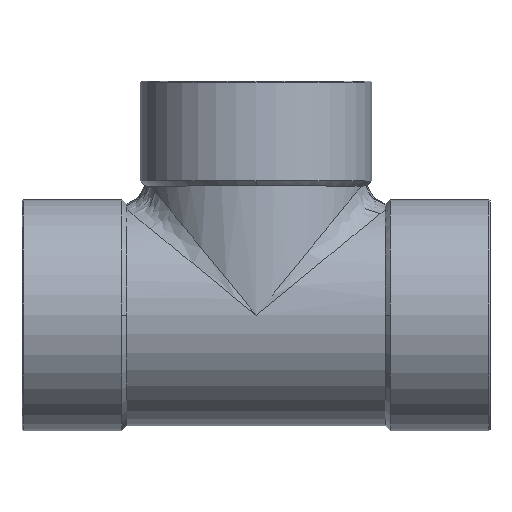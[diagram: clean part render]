
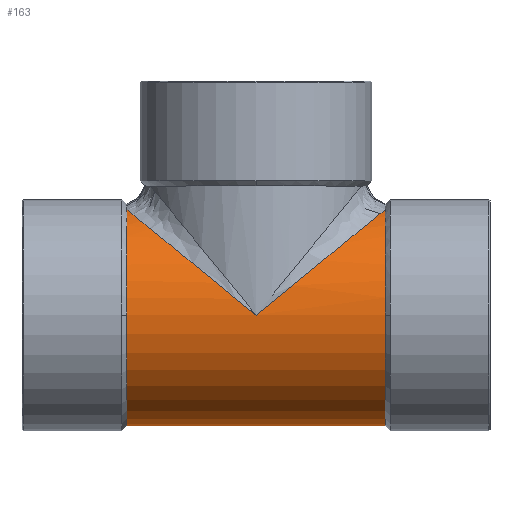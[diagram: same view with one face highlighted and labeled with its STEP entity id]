
A CAD part, top view. The second image highlights one B-rep face of the part: STEP entity #163.
In plain terms, the highlighted cylindrical face has radius 44.5 mm (diameter 89 mm), a partial arc.
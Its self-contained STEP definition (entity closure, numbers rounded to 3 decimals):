
#77=CARTESIAN_POINT('',(52.,0.,44.5));
#78=VERTEX_POINT('',#77);
#85=CARTESIAN_POINT('',(52.,-44.5,0.));
#86=VERTEX_POINT('',#85);
#87=CARTESIAN_POINT('',(52.,0.,0.0));
#88=DIRECTION('',(-1.0,0.0,0.0));
#89=DIRECTION('',(0.0,1.0,0.0));
#90=AXIS2_PLACEMENT_3D('',#87,#88,#89);
#91=CIRCLE('',#90,44.5);
#92=EDGE_CURVE('',#86,#78,#91,.T.);
#104=CARTESIAN_POINT('',(0.,0.,0.0));
#105=DIRECTION('',(1.0,0.,0.0));
#106=DIRECTION('',(0.0,1.0,0.0));
#107=AXIS2_PLACEMENT_3D('',#104,#105,#106);
#108=CYLINDRICAL_SURFACE('',#107,44.5);
#109=CARTESIAN_POINT('',(-52.,-44.5,0.));
#110=VERTEX_POINT('',#109);
#111=CARTESIAN_POINT('',(52.,-44.5,0.));
#112=DIRECTION('',(-1.0,0.0,0.0));
#113=VECTOR('',#112,104.);
#114=LINE('',#111,#113);
#115=EDGE_CURVE('',#86,#110,#114,.T.);
#116=ORIENTED_EDGE('',*,*,#115,.F.);
#117=ORIENTED_EDGE('',*,*,#92,.T.);
#118=CARTESIAN_POINT('',(52.,42.459,13.323));
#119=VERTEX_POINT('',#118);
#120=CARTESIAN_POINT('',(52.,0.,0.0));
#121=DIRECTION('',(-1.0,0.0,0.0));
#122=DIRECTION('',(0.0,1.0,0.0));
#123=AXIS2_PLACEMENT_3D('',#120,#121,#122);
#124=CIRCLE('',#123,44.5);
#125=EDGE_CURVE('',#78,#119,#124,.T.);
#126=ORIENTED_EDGE('',*,*,#125,.T.);
#127=CARTESIAN_POINT('',(0.,0.,44.5));
#128=VERTEX_POINT('',#127);
#129=CARTESIAN_POINT('',(0.0,0.,0.0));
#130=DIRECTION('',(-0.632,0.775,0.));
#131=DIRECTION('',(0.775,0.632,0.0));
#132=AXIS2_PLACEMENT_3D('',#129,#130,#131);
#133=ELLIPSE('',#132,70.36,44.5);
#134=EDGE_CURVE('',#128,#119,#133,.T.);
#135=ORIENTED_EDGE('',*,*,#134,.F.);
#136=CARTESIAN_POINT('',(-52.,42.459,13.323));
#137=VERTEX_POINT('',#136);
#138=CARTESIAN_POINT('',(0.0,0.,0.0));
#139=DIRECTION('',(0.632,0.775,0.));
#140=DIRECTION('',(-0.775,0.632,0.0));
#141=AXIS2_PLACEMENT_3D('',#138,#139,#140);
#142=ELLIPSE('',#141,70.36,44.5);
#143=EDGE_CURVE('',#137,#128,#142,.T.);
#144=ORIENTED_EDGE('',*,*,#143,.F.);
#145=CARTESIAN_POINT('',(-52.0,0.,44.5));
#146=VERTEX_POINT('',#145);
#147=CARTESIAN_POINT('',(-52.,0.,0.0));
#148=DIRECTION('',(1.0,0.0,0.0));
#149=DIRECTION('',(0.0,1.0,0.0));
#150=AXIS2_PLACEMENT_3D('',#147,#148,#149);
#151=CIRCLE('',#150,44.5);
#152=EDGE_CURVE('',#137,#146,#151,.T.);
#153=ORIENTED_EDGE('',*,*,#152,.T.);
#154=CARTESIAN_POINT('',(-52.,0.,0.0));
#155=DIRECTION('',(1.0,0.0,0.0));
#156=DIRECTION('',(0.0,1.0,0.0));
#157=AXIS2_PLACEMENT_3D('',#154,#155,#156);
#158=CIRCLE('',#157,44.5);
#159=EDGE_CURVE('',#146,#110,#158,.T.);
#160=ORIENTED_EDGE('',*,*,#159,.T.);
#161=EDGE_LOOP('',(#116,#117,#126,#135,#144,#153,#160));
#162=FACE_OUTER_BOUND('',#161,.T.);
#163=ADVANCED_FACE('',(#162),#108,.T.);
